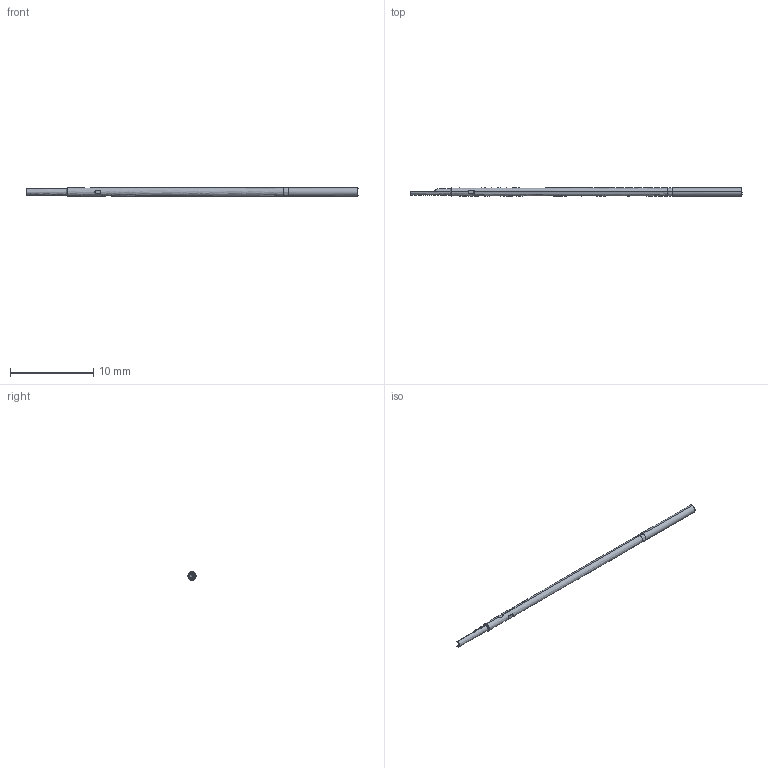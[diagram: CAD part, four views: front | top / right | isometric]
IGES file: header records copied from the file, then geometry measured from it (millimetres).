
Start section: SolidWorks IGES file using analytic representation for surfaces
Global section: file name: \\CODA-VM-SBS\RedirectedFolders\georged\My Documents\CODA FILES NEW\ATE TEST PROBES\LPC1 & ST-LPC1 SERIES\LRC1S.IGS; native system: SolidWorks 2022; preprocessor: SolidWorks 2022; author: GeorgeD; date: 230516.105713; units: inch
Bounding box: 39.88 x 1.04 x 1.05 mm (x, y, z)
Surface area: 218.5 mm2 (no closed solid volume)
Topology: 0 solids, 0 shells, 85 faces, 625 edges, 624 vertices
Faces by surface type: bspline 85
